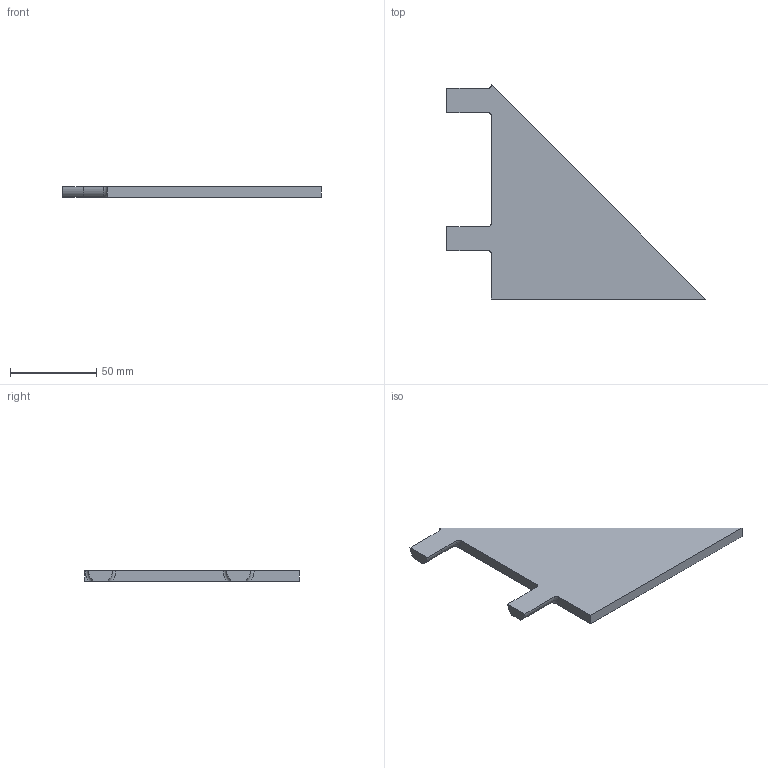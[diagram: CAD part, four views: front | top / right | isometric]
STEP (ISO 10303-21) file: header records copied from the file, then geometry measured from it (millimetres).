
FILE_DESCRIPTION(('Open CASCADE Model'),'2;1');
FILE_NAME('Open CASCADE Shape Model','2026-10-15T15:10:11',('Author'),( 'Open CASCADE'),'Open CASCADE STEP processor 8.0','Open CASCADE 8.0' ,'Unknown');
FILE_SCHEMA(('AUTOMOTIVE_DESIGN { 1 0 10303 214 1 1 1 1 }'));
Length unit declared in the file: millimetre
Products named in the file (1): J01_CARTELA_150x150x6_P05_JUNTA_37 218
Bounding box: 150 x 124 x 6 mm (x, y, z)
Volume: 49900.6 mm3; surface area: 19752.8 mm2
Topology: 1 solids, 1 shells, 21 faces, 56 edges, 37 vertices
Faces by surface type: plane 9, cylinder 8, torus 4
Entity records: 4268 total; most frequent: CARTESIAN_POINT 3259, DIRECTION 150, ORIENTED_EDGE 112, PCURVE 112, DEFINITIONAL_REPRESENTATION 112, B_SPLINE_CURVE_WITH_KNOTS 74, LINE 70, VECTOR 70
